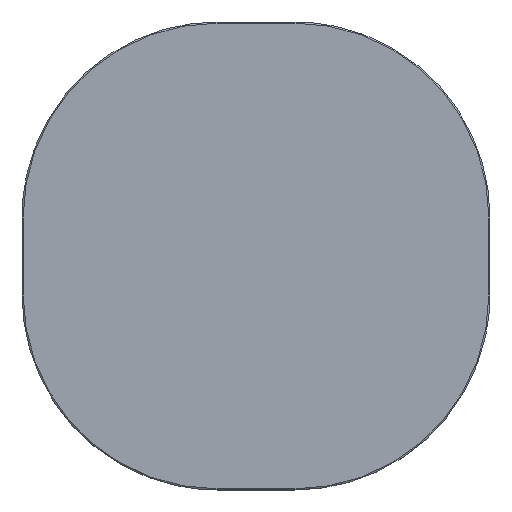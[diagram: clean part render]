
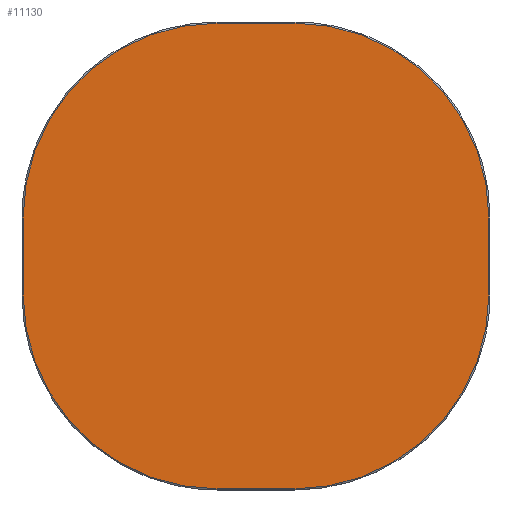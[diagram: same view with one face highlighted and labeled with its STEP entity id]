
A CAD part, top view. The second image highlights one B-rep face of the part: STEP entity #11130.
In plain terms, the highlighted planar face has unit normal (0, 0, 1).
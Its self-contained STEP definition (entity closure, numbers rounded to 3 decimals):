
#11040=CARTESIAN_POINT('',(0.,0.,20.));
#11041=DIRECTION('',(1.,0.,0.));
#11042=DIRECTION('',(0.,0.,1.));
#11043=AXIS2_PLACEMENT_3D('',#11040,#11042,#11041);
#11044=PLANE('',#11043);
#11045=CARTESIAN_POINT('',(-50.,-298.5,20.));
#11046=VERTEX_POINT('',#11045);
#11047=CARTESIAN_POINT('',(50.,-298.5,20.));
#11048=VERTEX_POINT('',#11047);
#11049=CARTESIAN_POINT('',(-50.,-298.5,20.));
#11050=DIRECTION('',(1.,0.,0.));
#11051=VECTOR('',#11050,100.);
#11052=LINE('',#11049,#11051);
#11053=EDGE_CURVE('',#11046,#11048,#11052,.T.);
#11054=ORIENTED_EDGE('E105',*,*,#11053,.T.);
#11055=CARTESIAN_POINT('',(298.5,-50.,20.));
#11056=VERTEX_POINT('',#11055);
#11057=CARTESIAN_POINT('',(50.,-50.,20.));
#11058=DIRECTION('',(0.,-1.,0.));
#11059=DIRECTION('',(0.,0.,1.));
#11060=AXIS2_PLACEMENT_3D('',#11057,#11059,#11058);
#11061=CIRCLE('',#11060,248.5);
#11062=EDGE_CURVE('',#11048,#11056,#11061,.T.);
#11063=ORIENTED_EDGE('E107',*,*,#11062,.T.);
#11064=CARTESIAN_POINT('',(298.5,50.001,20.));
#11065=VERTEX_POINT('',#11064);
#11066=CARTESIAN_POINT('',(298.5,-50.,20.));
#11067=CARTESIAN_POINT('',(298.5,-23.23,20.));
#11068=CARTESIAN_POINT('',(298.5,26.77,20.));
#11069=CARTESIAN_POINT('',(298.5,50.001,20.));
#11070=B_SPLINE_CURVE_WITH_KNOTS('',2,(#11066,#11067,#11068,#11069),.UNSPECIFIED.,.F.,.U.,(3,1,3),(0.,0.535,1.),.UNSPECIFIED.);
#11071=EDGE_CURVE('',#11056,#11065,#11070,.T.);
#11072=ORIENTED_EDGE('E109',*,*,#11071,.T.);
#11073=CARTESIAN_POINT('',(50.,298.5,20.));
#11074=VERTEX_POINT('',#11073);
#11075=CARTESIAN_POINT('',(50.,50.,20.));
#11076=DIRECTION('',(1.,0.,0.));
#11077=DIRECTION('',(0.,0.,1.));
#11078=AXIS2_PLACEMENT_3D('',#11075,#11077,#11076);
#11079=CIRCLE('',#11078,248.5);
#11080=EDGE_CURVE('',#11065,#11074,#11079,.T.);
#11081=ORIENTED_EDGE('E111',*,*,#11080,.T.);
#11082=CARTESIAN_POINT('',(-50.001,298.5,20.));
#11083=VERTEX_POINT('',#11082);
#11084=CARTESIAN_POINT('',(50.,298.5,20.));
#11085=CARTESIAN_POINT('',(44.06,298.499,20.));
#11086=CARTESIAN_POINT('',(33.903,298.5,20.));
#11087=CARTESIAN_POINT('',(23.359,298.5,20.));
#11088=CARTESIAN_POINT('',(7.191,298.5,20.));
#11089=CARTESIAN_POINT('',(-12.023,298.5,20.));
#11090=CARTESIAN_POINT('',(-27.644,298.501,20.));
#11091=CARTESIAN_POINT('',(-38.058,298.499,20.));
#11092=CARTESIAN_POINT('',(-46.112,298.498,20.));
#11093=CARTESIAN_POINT('',(-50.001,298.5,20.));
#11094=B_SPLINE_CURVE_WITH_KNOTS('',2,(#11084,#11085,#11086,#11087,#11088,#11089,#11090,#11091,#11092,#11093),.UNSPECIFIED.,.F.,.U.,(3,1,1,1,1,1,1,1,3),(0.,0.119,0.203,0.33,0.527,0.714,0.839,0.922,1.),.UNSPECIFIED.);
#11095=EDGE_CURVE('',#11074,#11083,#11094,.T.);
#11096=ORIENTED_EDGE('E113',*,*,#11095,.T.);
#11097=CARTESIAN_POINT('',(-298.5,50.,20.));
#11098=VERTEX_POINT('',#11097);
#11099=CARTESIAN_POINT('',(-50.,50.,20.));
#11100=DIRECTION('',(0.,1.,0.));
#11101=DIRECTION('',(0.,0.,1.));
#11102=AXIS2_PLACEMENT_3D('',#11099,#11101,#11100);
#11103=CIRCLE('',#11102,248.5);
#11104=EDGE_CURVE('',#11083,#11098,#11103,.T.);
#11105=ORIENTED_EDGE('E115',*,*,#11104,.T.);
#11106=CARTESIAN_POINT('',(-298.5,-50.001,20.));
#11107=VERTEX_POINT('',#11106);
#11108=CARTESIAN_POINT('',(-298.5,50.,20.));
#11109=CARTESIAN_POINT('',(-298.499,44.06,20.));
#11110=CARTESIAN_POINT('',(-298.5,33.903,20.));
#11111=CARTESIAN_POINT('',(-298.5,23.359,20.));
#11112=CARTESIAN_POINT('',(-298.5,7.191,20.));
#11113=CARTESIAN_POINT('',(-298.5,-12.023,20.));
#11114=CARTESIAN_POINT('',(-298.501,-27.644,20.));
#11115=CARTESIAN_POINT('',(-298.499,-38.058,20.));
#11116=CARTESIAN_POINT('',(-298.498,-46.112,20.));
#11117=CARTESIAN_POINT('',(-298.5,-50.001,20.));
#11118=B_SPLINE_CURVE_WITH_KNOTS('',2,(#11108,#11109,#11110,#11111,#11112,#11113,#11114,#11115,#11116,#11117),.UNSPECIFIED.,.F.,.U.,(3,1,1,1,1,1,1,1,3),(0.,0.119,0.203,0.33,0.527,0.714,0.839,0.922,1.),.UNSPECIFIED.);
#11119=EDGE_CURVE('',#11098,#11107,#11118,.T.);
#11120=ORIENTED_EDGE('E117',*,*,#11119,.T.);
#11121=CARTESIAN_POINT('',(-50.,-50.,20.));
#11122=DIRECTION('',(-1.,0.,0.));
#11123=DIRECTION('',(0.,0.,1.));
#11124=AXIS2_PLACEMENT_3D('',#11121,#11123,#11122);
#11125=CIRCLE('',#11124,248.5);
#11126=EDGE_CURVE('',#11107,#11046,#11125,.T.);
#11127=ORIENTED_EDGE('E119',*,*,#11126,.T.);
#11128=EDGE_LOOP('',(#11054,#11063,#11072,#11081,#11096,#11105,#11120,#11127));
#11129=FACE_OUTER_BOUND('',#11128,.T.);
#11130=ADVANCED_FACE('F2',(#11129),#11044,.T.);
